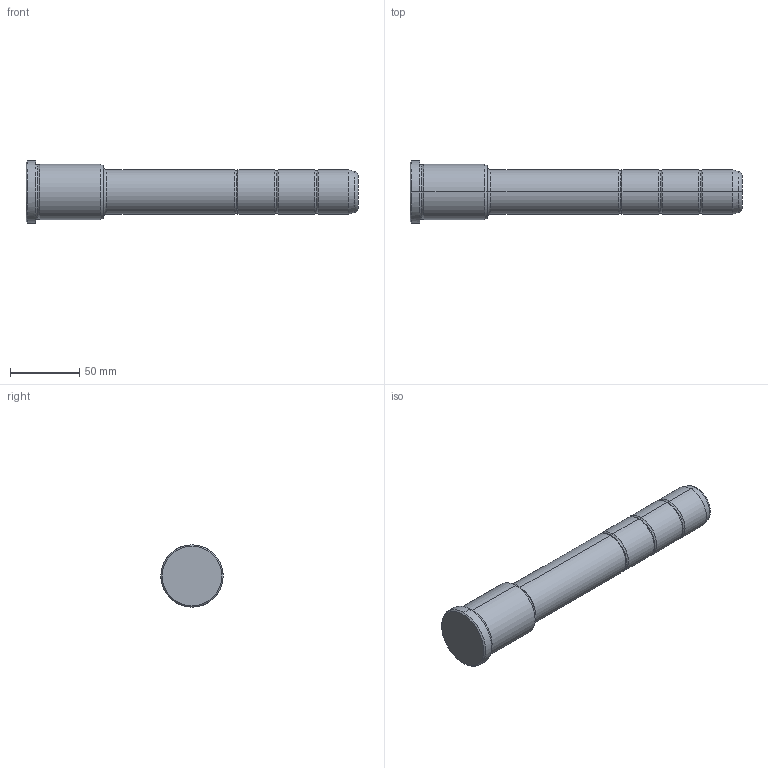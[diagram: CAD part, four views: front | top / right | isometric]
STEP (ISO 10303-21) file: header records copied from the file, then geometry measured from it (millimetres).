
FILE_DESCRIPTION(('CATIA V5 STEP Exchange'),'2;1');
FILE_NAME('C:\Users\Utente\Desktop\IO LAVORO\3D X SITO CF\X SITO\PLASTICA\351\351-32X56X240.stp','2021-09-07T12:32:09+00:00',('none'),('none'),'CATIA Version 5 Release 20 GA (IN-10)','CATIA V5 STEP AP203','none');
FILE_SCHEMA(('CONFIG_CONTROL_DESIGN'));
Length unit declared in the file: millimetre
Products named in the file (1): 351-32X56X240
Bounding box: 240 x 45 x 45 mm (x, y, z)
Volume: 219342.7 mm3; surface area: 28450.2 mm2
Topology: 1 solids, 1 shells, 42 faces, 118 edges, 80 vertices
Faces by surface type: torus 20, cylinder 12, cone 6, plane 4
Entity records: 1472 total; most frequent: CARTESIAN_POINT 353, ORIENTED_EDGE 236, DIRECTION 194, AXIS2_PLACEMENT_3D 135, EDGE_CURVE 118, CIRCLE 92, VERTEX_POINT 80, EDGE_LOOP 44
